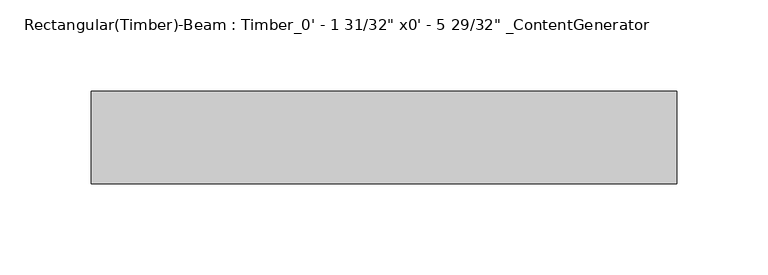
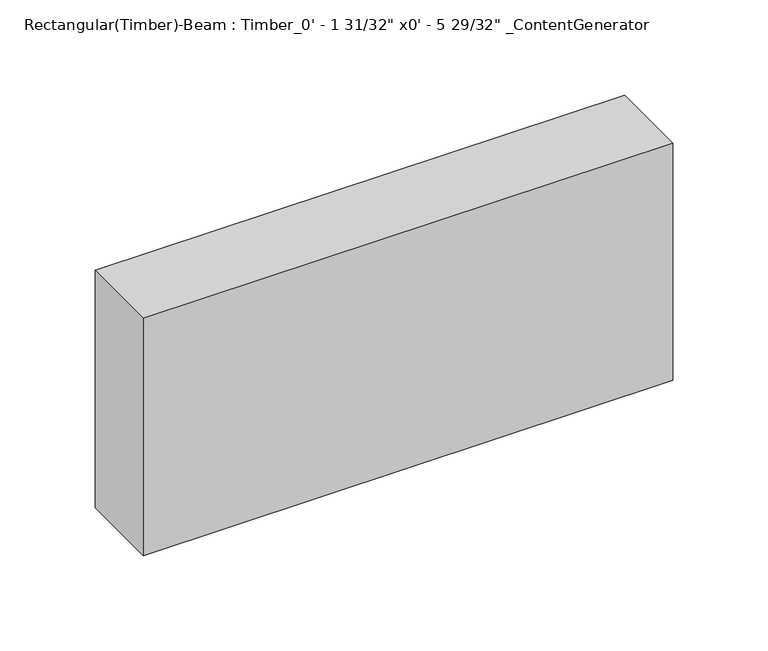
"""IFC4 building model written with IfcOpenShell, lengths in millimetres: beam geometry."""

from ifc_helpers import new_model, si_unit, frame, origin, place, context, project, spatial, polyline, outline, extrude, source, transform, mapped, element, save


def beam_4fda8a04(model_context):
    return source(origin(), model_context, "Body", "SweptSolid", [
        extrude(outline(polyline([(173.5616661, 25.4), (173.5616661, -25.4), (-148.1616667, -25.4), (-148.1616667, 25.4), (173.5616661, 25.4)])), frame((0.0, 0.0, -76.2), z_axis=(0.0, 0.0, 1.0), x_axis=(1.0, 0.0, 0.0)), (0.0, 0.0, 1.0), 152.4),
    ])


if __name__ == "__main__":
    model = new_model("IFC4")
    model_context = context("Model", 3, world=origin())
    ifc_project = project(units=[si_unit("LENGTHUNIT", "METRE", prefix="MILLI")], contexts=[model_context])
    site = spatial("IfcSite", under=ifc_project)
    building = spatial("IfcBuilding", under=site)
    placement = place(None, origin())
    beam_shape = beam_4fda8a04(model_context)
    element("IfcBeam", 1, ObjectType="Rectangular(Timber)-Beam : Timber_0' - 1 31/32\" x0' - 5 29/32\" _ContentGenerator", at=placement, inside=building, context=model_context, shape_type="MappedRepresentation", body=[
        mapped(beam_shape, transform((0.0, 0.0, 0.0), x_axis=(1.0, 0.0, 0.0), y_axis=(0.0, 1.0, 0.0), z_axis=(0.0, 0.0, 1.0))),
    ])
    save(model, "model.ifc")
